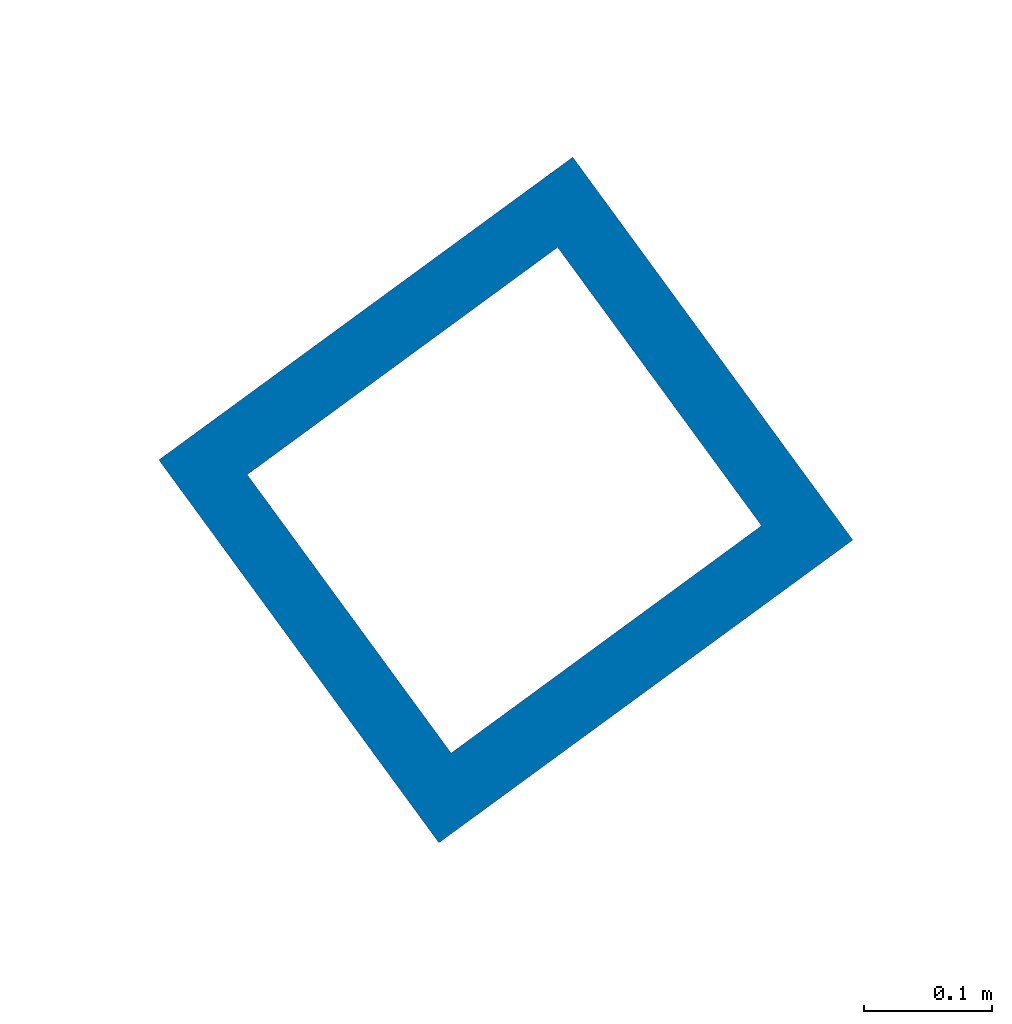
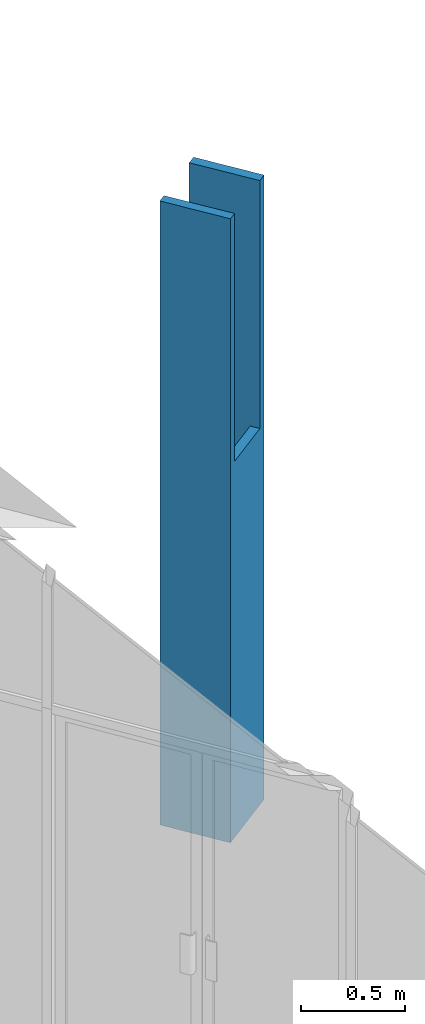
# One storey, part 15 of 24: 1 column.
"""IFC2X3 building model written with IfcOpenShell, lengths in millimetres."""

from ifc_helpers import new_model, entity, si_unit, converted_unit, derived_unit, direction, frame, origin, place, context, subcontext, project, spatial, faceted_brep, source, transform, mapped, material, type_object, type_shapes, element, save


model = new_model("IFC2X3")

# Units and contexts
model_context = context("Model", 3, precision=0.01, world=origin(), true_north=direction((6.123031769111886e-17, 1.0)))
body_context = subcontext(model_context, "Body", "Model", "MODEL_VIEW")
ifc_project = project(units=[si_unit("LENGTHUNIT", "METRE", prefix="MILLI"), si_unit("AREAUNIT", "SQUARE_METRE"), si_unit("VOLUMEUNIT", "CUBIC_METRE"), converted_unit("PLANEANGLEUNIT", "DEGREE", entity("IfcRatioMeasure", 0.017453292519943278), si_unit("PLANEANGLEUNIT", "RADIAN"), dimensions=[0, 0, 0, 0, 0, 0, 0]), si_unit("MASSUNIT", "GRAM", prefix="KILO"), derived_unit("MASSDENSITYUNIT", [(si_unit("MASSUNIT", "GRAM", prefix="KILO"), 1), (si_unit("LENGTHUNIT", "METRE"), -3)]), derived_unit("MOMENTOFINERTIAUNIT", [(si_unit("LENGTHUNIT", "METRE"), 4)]), si_unit("TIMEUNIT", "SECOND"), si_unit("FREQUENCYUNIT", "HERTZ"), si_unit("THERMODYNAMICTEMPERATUREUNIT", "DEGREE_CELSIUS"), derived_unit("THERMALTRANSMITTANCEUNIT", [(si_unit("MASSUNIT", "GRAM", prefix="KILO"), 1), (si_unit("THERMODYNAMICTEMPERATUREUNIT", "KELVIN"), -1), (si_unit("TIMEUNIT", "SECOND"), -3)]), derived_unit("THERMALCONDUCTANCEUNIT", [(si_unit("MASSUNIT", "GRAM", prefix="KILO"), 1), (si_unit("LENGTHUNIT", "METRE"), 1), (si_unit("THERMODYNAMICTEMPERATUREUNIT", "KELVIN"), -1), (si_unit("TIMEUNIT", "SECOND"), -3)]), derived_unit("VOLUMETRICFLOWRATEUNIT", [(si_unit("LENGTHUNIT", "METRE"), 3), (si_unit("TIMEUNIT", "SECOND"), -1)]), derived_unit("MASSFLOWRATEUNIT", [(si_unit("MASSUNIT", "GRAM", prefix="KILO"), 1), (si_unit("TIMEUNIT", "SECOND"), -1)]), derived_unit("ROTATIONALFREQUENCYUNIT", [(si_unit("TIMEUNIT", "SECOND"), -1)]), si_unit("ELECTRICCURRENTUNIT", "AMPERE"), si_unit("ELECTRICVOLTAGEUNIT", "VOLT"), si_unit("POWERUNIT", "WATT"), converted_unit("FORCEUNIT", "KIP", entity("IfcRatioMeasure", 2.088543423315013e-05), si_unit("FORCEUNIT", "NEWTON"), dimensions=[1, 1, -2, 0, 0, 0, 0]), si_unit("ILLUMINANCEUNIT", "LUX"), si_unit("LUMINOUSFLUXUNIT", "LUMEN"), si_unit("LUMINOUSINTENSITYUNIT", "CANDELA"), derived_unit("USERDEFINED", [(si_unit("MASSUNIT", "GRAM", prefix="KILO"), -1), (si_unit("LENGTHUNIT", "METRE"), -2), (si_unit("TIMEUNIT", "SECOND"), 3), (si_unit("LUMINOUSFLUXUNIT", "LUMEN"), 1)]), derived_unit("USERDEFINED", [(si_unit("MASSUNIT", "GRAM", prefix="KILO"), 1), (si_unit("LENGTHUNIT", "METRE"), 3), (si_unit("TIMEUNIT", "SECOND"), -3), (si_unit("ELECTRICCURRENTUNIT", "AMPERE"), -2)]), derived_unit("USERDEFINED", [(si_unit("LENGTHUNIT", "METRE"), 2), (si_unit("TIMEUNIT", "SECOND"), -2)]), derived_unit("SOUNDPOWERUNIT", [(si_unit("MASSUNIT", "GRAM", prefix="KILO"), 1), (si_unit("LENGTHUNIT", "METRE"), 2), (si_unit("TIMEUNIT", "SECOND"), -3)]), derived_unit("SOUNDPRESSUREUNIT", [(si_unit("MASSUNIT", "GRAM", prefix="KILO"), 1), (si_unit("LENGTHUNIT", "METRE"), -1), (si_unit("TIMEUNIT", "SECOND"), -2)]), derived_unit("LINEARVELOCITYUNIT", [(si_unit("LENGTHUNIT", "METRE"), 1), (si_unit("TIMEUNIT", "SECOND"), -1)]), si_unit("PRESSUREUNIT", "PASCAL"), derived_unit("USERDEFINED", [(si_unit("LENGTHUNIT", "METRE"), -2), (si_unit("MASSUNIT", "GRAM", prefix="KILO"), 1), (si_unit("TIMEUNIT", "SECOND"), -2)]), derived_unit("LINEARFORCEUNIT", [(si_unit("MASSUNIT", "GRAM", prefix="KILO"), 1), (si_unit("LENGTHUNIT", "METRE"), 1), (si_unit("TIMEUNIT", "SECOND"), -2), (si_unit("LENGTHUNIT", "METRE"), -1)]), derived_unit("PLANARFORCEUNIT", [(si_unit("MASSUNIT", "GRAM", prefix="KILO"), 1), (si_unit("LENGTHUNIT", "METRE"), 1), (si_unit("TIMEUNIT", "SECOND"), -2), (si_unit("LENGTHUNIT", "METRE"), -2)]), derived_unit("SPECIFICHEATCAPACITYUNIT", [(si_unit("LENGTHUNIT", "METRE"), 2), (si_unit("TIMEUNIT", "SECOND"), -2), (si_unit("THERMODYNAMICTEMPERATUREUNIT", "KELVIN"), -1)]), derived_unit("VAPORPERMEABILITYUNIT", [(si_unit("TIMEUNIT", "SECOND"), 1), (si_unit("LENGTHUNIT", "METRE"), -1)]), derived_unit("DYNAMICVISCOSITYUNIT", [(si_unit("MASSUNIT", "GRAM", prefix="KILO"), 1), (si_unit("LENGTHUNIT", "METRE"), -1), (si_unit("TIMEUNIT", "SECOND"), -1)]), derived_unit("THERMALEXPANSIONCOEFFICIENTUNIT", [(si_unit("THERMODYNAMICTEMPERATUREUNIT", "KELVIN"), -1)])], contexts=[model_context])

# Site, building, storey
site_placement = place(None, frame((0.0, 0.0, 0.0), z_axis=(0.0, 0.0, 1.0), x_axis=(0.8191520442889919, 0.5735764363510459, 0.0)))
site = spatial("IfcSite", under=ifc_project, at=site_placement, Name="Default", CompositionType="ELEMENT")
building_placement = place(site_placement, origin())
building = spatial("IfcBuilding", under=site, at=building_placement, CompositionType="ELEMENT")
storey_placement = place(building_placement, frame((0.0, 0.0, -1150.0)))
storey = spatial("IfcBuildingStorey", under=building, at=storey_placement, Name="6.EG KH -1.15", CompositionType="ELEMENT", Elevation=-1150.0000000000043)

# Column
ifc_material = material(Name="Analytical Wall Surface_CJC")
column_type = type_object("IfcColumnType", Name="Columns_Rectangular:37x40", PredefinedType="COLUMN", material=ifc_material)
shared_shape = source(origin(), body_context, "Body", "Brep", [
    faceted_brep([(0.0, 369.92074524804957, 3650.0), (7.65782182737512, 0.0, 3650.0), (56.73723319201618, 1.0160051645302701, 3650.0), (48.875055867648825, 370.9325199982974, 3650.0), (0.0, 369.92074524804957, 0.0), (399.91431918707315, 378.1994715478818, 0.0), (407.5721410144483, 8.278726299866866, 0.0), (7.65782182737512, 0.0, 0.0), (355.587146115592, 58.31548745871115, 0.0), (349.8700691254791, 327.30473915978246, 0.0), (49.93780556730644, 320.93000176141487, 0.0), (55.65488255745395, 51.94075006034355, 0.0), (407.5721410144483, 8.278726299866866, 3650.0), (356.6730183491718, 7.22505083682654, 3650.0), (356.673018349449, 7.22505083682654, 2200.0), (56.73723319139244, 1.0160051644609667, 2200.0), (399.91431918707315, 378.1994715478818, 3650.0), (48.875055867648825, 370.9325199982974, 2200.0), (348.8108410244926, 377.14156567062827, 2200.0), (348.8108410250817, 377.14156567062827, 3650.0), (355.587146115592, 58.31548745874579, 2200.0), (349.8700691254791, 327.30473915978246, 2200.0), (49.937805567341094, 320.93000176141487, 2200.0), (55.65488255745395, 51.94075006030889, 2200.0)], [[[0, 1, 2, 3]], [[4, 5, 6, 7], [8, 9, 10, 11]], [[1, 0, 4, 7]], [[7, 6, 12, 13, 14, 15, 2, 1]], [[16, 12, 6, 5]], [[5, 4, 0, 3, 17, 18, 19, 16]], [[8, 20, 14, 13, 19, 18, 21, 9]], [[10, 22, 17, 3, 2, 15, 23, 11]], [[12, 16, 19, 13]], [[20, 8, 11, 23]], [[20, 23, 15, 14]], [[22, 21, 18, 17]], [[9, 21, 22, 10]]]),
])
type_shapes(column_type, [shared_shape])
column_placement = place(storey_placement, frame((-187018.76319751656, 190467.20214159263, 0.0)))
element("IfcColumn", 1, at=column_placement, inside=storey, type_object=column_type, material=ifc_material, Name="Columns_Rectangular:37x40", ObjectType="Columns_Rectangular:37x40", context=body_context, shape_type="MappedRepresentation", body=[
    mapped(shared_shape, transform((0.0, 0.0, 0.0), scale=1.0)),
])

save(model, "model.ifc")
